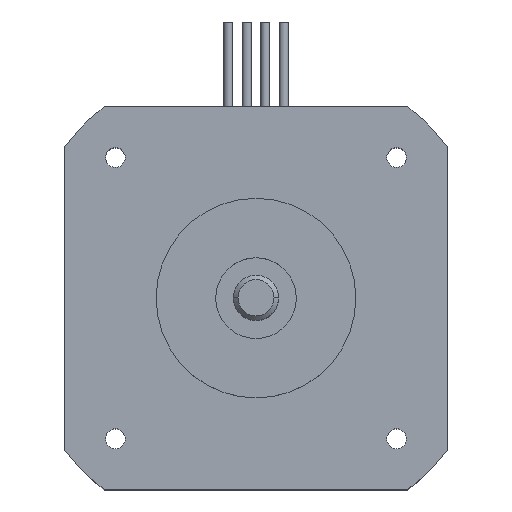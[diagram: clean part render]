
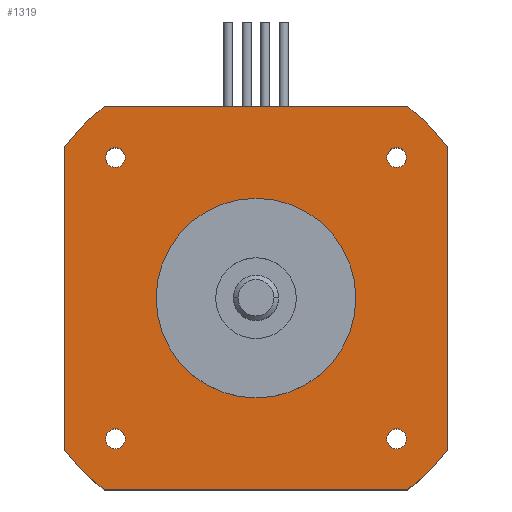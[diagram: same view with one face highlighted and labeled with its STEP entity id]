
A CAD part, top view. The second image highlights one B-rep face of the part: STEP entity #1319.
In plain terms, the highlighted planar face has unit normal (0, 0, 1).
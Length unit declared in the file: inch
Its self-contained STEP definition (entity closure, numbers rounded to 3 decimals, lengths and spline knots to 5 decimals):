
#237=CARTESIAN_POINT('',(-0.653,0.61,1.34));
#238=VERTEX_POINT('',#237);
#254=CARTESIAN_POINT('',(-0.567,0.61,1.34));
#255=VERTEX_POINT('',#254);
#262=CARTESIAN_POINT('',(-0.61,0.61,1.34));
#263=DIRECTION('',(0.0,0.0,-1.0));
#264=DIRECTION('',(-1.0,0.0,0.0));
#265=AXIS2_PLACEMENT_3D('',#262,#263,#264);
#266=CIRCLE('',#265,0.043);
#267=EDGE_CURVE('',#238,#255,#266,.T.);
#279=CARTESIAN_POINT('',(0.61,0.653,1.34));
#280=VERTEX_POINT('',#279);
#296=CARTESIAN_POINT('',(0.61,0.567,1.34));
#297=VERTEX_POINT('',#296);
#304=CARTESIAN_POINT('',(0.61,0.61,1.34));
#305=DIRECTION('',(0.0,0.0,-1.0));
#306=DIRECTION('',(0.0,1.0,0.0));
#307=AXIS2_PLACEMENT_3D('',#304,#305,#306);
#308=CIRCLE('',#307,0.043);
#309=EDGE_CURVE('',#280,#297,#308,.T.);
#321=CARTESIAN_POINT('',(-0.61,-0.653,1.34));
#322=VERTEX_POINT('',#321);
#338=CARTESIAN_POINT('',(-0.61,-0.567,1.34));
#339=VERTEX_POINT('',#338);
#346=CARTESIAN_POINT('',(-0.61,-0.61,1.34));
#347=DIRECTION('',(0.0,0.0,-1.0));
#348=DIRECTION('',(0.0,-1.0,0.0));
#349=AXIS2_PLACEMENT_3D('',#346,#347,#348);
#350=CIRCLE('',#349,0.043);
#351=EDGE_CURVE('',#322,#339,#350,.T.);
#363=CARTESIAN_POINT('',(0.653,-0.61,1.34));
#364=VERTEX_POINT('',#363);
#380=CARTESIAN_POINT('',(0.567,-0.61,1.34));
#381=VERTEX_POINT('',#380);
#388=CARTESIAN_POINT('',(0.61,-0.61,1.34));
#389=DIRECTION('',(0.0,0.0,-1.0));
#390=DIRECTION('',(1.0,0.0,0.0));
#391=AXIS2_PLACEMENT_3D('',#388,#389,#390);
#392=CIRCLE('',#391,0.043);
#393=EDGE_CURVE('',#364,#381,#392,.T.);
#403=CARTESIAN_POINT('',(-0.433,0.,1.34));
#404=VERTEX_POINT('',#403);
#413=CARTESIAN_POINT('',(0.433,0.,1.34));
#414=VERTEX_POINT('',#413);
#415=CARTESIAN_POINT('',(0.0,0.0,1.34));
#416=DIRECTION('',(0.0,0.0,-1.0));
#417=DIRECTION('',(-1.0,0.0,0.0));
#418=AXIS2_PLACEMENT_3D('',#415,#416,#417);
#419=CIRCLE('',#418,0.433);
#420=EDGE_CURVE('',#414,#404,#419,.T.);
#917=CARTESIAN_POINT('',(-0.83,0.65932,1.34));
#918=VERTEX_POINT('',#917);
#927=CARTESIAN_POINT('',(-0.65932,0.83,1.34));
#928=VERTEX_POINT('',#927);
#929=CARTESIAN_POINT('',(0.0,0.0,1.34));
#930=DIRECTION('',(0.0,0.0,1.0));
#931=DIRECTION('',(1.0,0.0,0.0));
#932=AXIS2_PLACEMENT_3D('',#929,#930,#931);
#933=CIRCLE('',#932,1.06);
#934=EDGE_CURVE('',#928,#918,#933,.T.);
#959=CARTESIAN_POINT('',(0.65932,0.83,1.34));
#960=VERTEX_POINT('',#959);
#969=CARTESIAN_POINT('',(0.83,0.65932,1.34));
#970=VERTEX_POINT('',#969);
#971=CARTESIAN_POINT('',(0.0,0.0,1.34));
#972=DIRECTION('',(0.0,0.0,1.0));
#973=DIRECTION('',(1.0,0.0,0.0));
#974=AXIS2_PLACEMENT_3D('',#971,#972,#973);
#975=CIRCLE('',#974,1.06);
#976=EDGE_CURVE('',#970,#960,#975,.T.);
#1001=CARTESIAN_POINT('',(0.83,-0.65932,1.34));
#1002=VERTEX_POINT('',#1001);
#1011=CARTESIAN_POINT('',(0.65932,-0.83,1.34));
#1012=VERTEX_POINT('',#1011);
#1013=CARTESIAN_POINT('',(0.0,0.0,1.34));
#1014=DIRECTION('',(0.0,0.0,1.0));
#1015=DIRECTION('',(1.0,0.0,0.0));
#1016=AXIS2_PLACEMENT_3D('',#1013,#1014,#1015);
#1017=CIRCLE('',#1016,1.06);
#1018=EDGE_CURVE('',#1012,#1002,#1017,.T.);
#1043=CARTESIAN_POINT('',(-0.65932,-0.83,1.34));
#1044=VERTEX_POINT('',#1043);
#1053=CARTESIAN_POINT('',(-0.83,-0.65932,1.34));
#1054=VERTEX_POINT('',#1053);
#1055=CARTESIAN_POINT('',(0.0,0.0,1.34));
#1056=DIRECTION('',(0.0,0.0,1.0));
#1057=DIRECTION('',(1.0,0.0,0.0));
#1058=AXIS2_PLACEMENT_3D('',#1055,#1056,#1057);
#1059=CIRCLE('',#1058,1.06);
#1060=EDGE_CURVE('',#1054,#1044,#1059,.T.);
#1172=CARTESIAN_POINT('',(-0.83,0.65932,1.34));
#1173=DIRECTION('',(0.0,-1.0,0.0));
#1174=VECTOR('',#1173,1.31864);
#1175=LINE('',#1172,#1174);
#1176=EDGE_CURVE('',#918,#1054,#1175,.T.);
#1221=CARTESIAN_POINT('',(0.0,0.0,1.34));
#1222=DIRECTION('',(0.0,0.0,-1.0));
#1223=DIRECTION('',(-1.0,0.0,0.0));
#1224=AXIS2_PLACEMENT_3D('',#1221,#1222,#1223);
#1225=CIRCLE('',#1224,0.433);
#1226=EDGE_CURVE('',#404,#414,#1225,.T.);
#1245=CARTESIAN_POINT('',(0.0,0.0,1.34));
#1246=DIRECTION('',(0.0,0.0,1.0));
#1247=DIRECTION('',(1.0,0.0,0.0));
#1248=AXIS2_PLACEMENT_3D('',#1245,#1246,#1247);
#1249=PLANE('',#1248);
#1250=ORIENTED_EDGE('',*,*,#1060,.T.);
#1251=CARTESIAN_POINT('',(-0.65932,-0.83,1.34));
#1252=DIRECTION('',(1.0,0.0,0.0));
#1253=VECTOR('',#1252,1.31864);
#1254=LINE('',#1251,#1253);
#1255=EDGE_CURVE('',#1044,#1012,#1254,.T.);
#1256=ORIENTED_EDGE('',*,*,#1255,.T.);
#1257=ORIENTED_EDGE('',*,*,#1018,.T.);
#1258=CARTESIAN_POINT('',(0.83,-0.65932,1.34));
#1259=DIRECTION('',(0.0,1.0,0.0));
#1260=VECTOR('',#1259,1.31864);
#1261=LINE('',#1258,#1260);
#1262=EDGE_CURVE('',#1002,#970,#1261,.T.);
#1263=ORIENTED_EDGE('',*,*,#1262,.T.);
#1264=ORIENTED_EDGE('',*,*,#976,.T.);
#1265=CARTESIAN_POINT('',(0.65932,0.83,1.34));
#1266=DIRECTION('',(-1.0,0.0,0.0));
#1267=VECTOR('',#1266,1.31864);
#1268=LINE('',#1265,#1267);
#1269=EDGE_CURVE('',#960,#928,#1268,.T.);
#1270=ORIENTED_EDGE('',*,*,#1269,.T.);
#1271=ORIENTED_EDGE('',*,*,#934,.T.);
#1272=ORIENTED_EDGE('',*,*,#1176,.T.);
#1273=EDGE_LOOP('',(#1250,#1256,#1257,#1263,#1264,#1270,#1271,#1272));
#1274=FACE_OUTER_BOUND('',#1273,.T.);
#1275=CARTESIAN_POINT('',(-0.61,0.61,1.34));
#1276=DIRECTION('',(0.0,0.0,-1.0));
#1277=DIRECTION('',(-1.0,0.0,0.0));
#1278=AXIS2_PLACEMENT_3D('',#1275,#1276,#1277);
#1279=CIRCLE('',#1278,0.043);
#1280=EDGE_CURVE('',#255,#238,#1279,.T.);
#1281=ORIENTED_EDGE('',*,*,#1280,.T.);
#1282=ORIENTED_EDGE('',*,*,#267,.T.);
#1283=EDGE_LOOP('',(#1281,#1282));
#1284=FACE_BOUND('',#1283,.T.);
#1285=CARTESIAN_POINT('',(0.61,0.61,1.34));
#1286=DIRECTION('',(0.0,0.0,-1.0));
#1287=DIRECTION('',(0.0,1.0,0.0));
#1288=AXIS2_PLACEMENT_3D('',#1285,#1286,#1287);
#1289=CIRCLE('',#1288,0.043);
#1290=EDGE_CURVE('',#297,#280,#1289,.T.);
#1291=ORIENTED_EDGE('',*,*,#1290,.T.);
#1292=ORIENTED_EDGE('',*,*,#309,.T.);
#1293=EDGE_LOOP('',(#1291,#1292));
#1294=FACE_BOUND('',#1293,.T.);
#1295=CARTESIAN_POINT('',(-0.61,-0.61,1.34));
#1296=DIRECTION('',(0.0,0.0,-1.0));
#1297=DIRECTION('',(0.0,-1.0,0.0));
#1298=AXIS2_PLACEMENT_3D('',#1295,#1296,#1297);
#1299=CIRCLE('',#1298,0.043);
#1300=EDGE_CURVE('',#339,#322,#1299,.T.);
#1301=ORIENTED_EDGE('',*,*,#1300,.T.);
#1302=ORIENTED_EDGE('',*,*,#351,.T.);
#1303=EDGE_LOOP('',(#1301,#1302));
#1304=FACE_BOUND('',#1303,.T.);
#1305=CARTESIAN_POINT('',(0.61,-0.61,1.34));
#1306=DIRECTION('',(0.0,0.0,-1.0));
#1307=DIRECTION('',(1.0,0.0,0.0));
#1308=AXIS2_PLACEMENT_3D('',#1305,#1306,#1307);
#1309=CIRCLE('',#1308,0.043);
#1310=EDGE_CURVE('',#381,#364,#1309,.T.);
#1311=ORIENTED_EDGE('',*,*,#1310,.T.);
#1312=ORIENTED_EDGE('',*,*,#393,.T.);
#1313=EDGE_LOOP('',(#1311,#1312));
#1314=FACE_BOUND('',#1313,.T.);
#1315=ORIENTED_EDGE('',*,*,#420,.T.);
#1316=ORIENTED_EDGE('',*,*,#1226,.T.);
#1317=EDGE_LOOP('',(#1315,#1316));
#1318=FACE_BOUND('',#1317,.T.);
#1319=ADVANCED_FACE('',(#1274,#1284,#1294,#1304,#1314,#1318),#1249,.T.);
